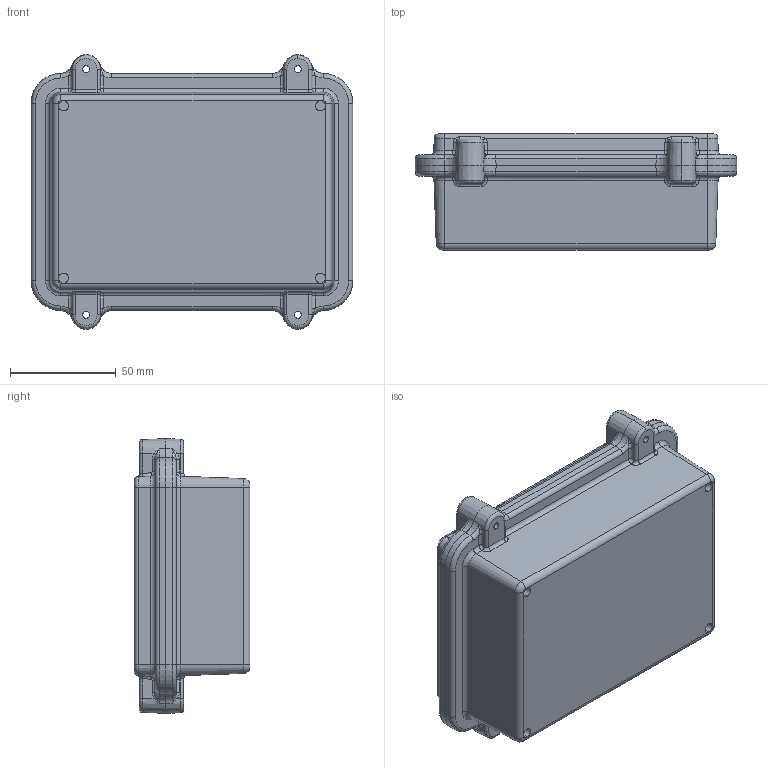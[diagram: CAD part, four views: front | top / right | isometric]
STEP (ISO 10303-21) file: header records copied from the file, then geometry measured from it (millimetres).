
FILE_DESCRIPTION (( 'STEP AP203' ), '1' );
FILE_NAME ('SE-534-0-0.STEP', '2018-09-29T09:20:16', ( '' ), ( '' ), 'SwSTEP 2.0', 'SolidWorks 2018', '' );
FILE_SCHEMA (( 'CONFIG_CONTROL_DESIGN' ));
Length unit declared in the file: millimetre
Products named in the file (3): SE-534-0-0; SE-534-P-1; SE-514-P-2
Assembly tree (2 placements, depth 2):
  SE-534-0-0
    SE-534-P-1
    SE-514-P-2
Bounding box: 152 x 54.7 x 129.75 mm (x, y, z)
Volume: 155137.9 mm3; surface area: 123817.4 mm2
Topology: 2 solids, 2 shells, 683 faces, 1613 edges, 939 vertices
Faces by surface type: cylinder 228, plane 151, bspline 124, cone 88, torus 72, sphere 20
Entity records: 23267 total; most frequent: CARTESIAN_POINT 8028, ORIENTED_EDGE 3194, DIRECTION 3140, EDGE_CURVE 1597, AXIS2_PLACEMENT_3D 1243, VERTEX_POINT 939, EDGE_LOOP 720, ADVANCED_FACE 683
